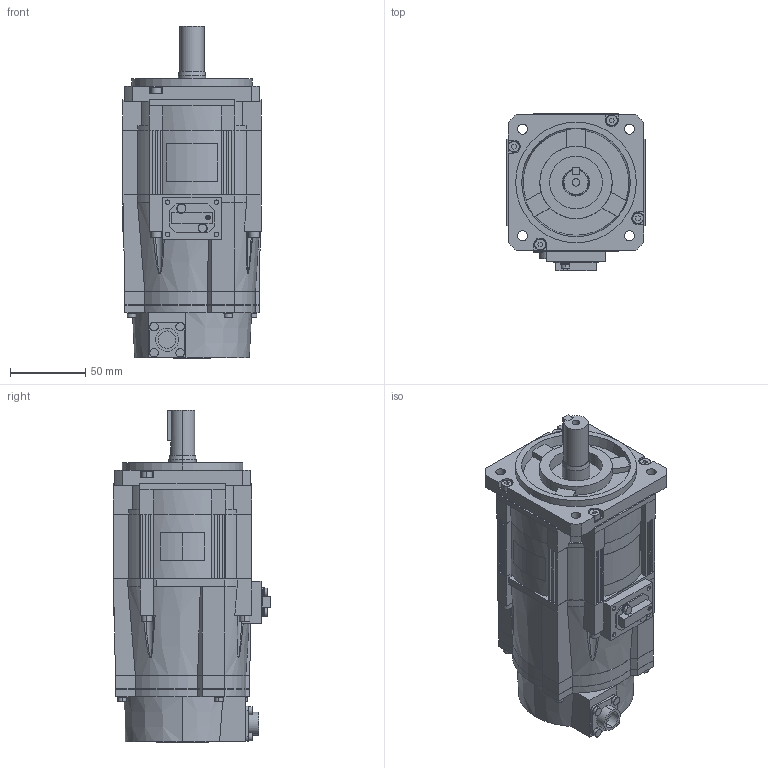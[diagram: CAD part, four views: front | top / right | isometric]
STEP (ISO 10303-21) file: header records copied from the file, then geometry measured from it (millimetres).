
FILE_DESCRIPTION (( 'STEP AP203' ), '1' );
FILE_NAME ('sgm7g_05a6a6c.STEP', '2016-11-12T04:50:00', ( '匠エンジニアリング山之内' ), ( 'TAKUMI-Engniaring' ), 'SwSTEP 2.0', 'SolidWorks 2006303', '' );
FILE_SCHEMA (( 'CONFIG_CONTROL_DESIGN' ));
Length unit declared in the file: millimetre
Products named in the file (3): sgm7g_05a6a6c_key; sgm7g_05a6a6c_base; sgm7g_05a6a6c
Assembly tree (2 placements, depth 2):
  sgm7g_05a6a6c
    sgm7g_05a6a6c_key
    sgm7g_05a6a6c_base
Bounding box: 92 x 104.5 x 220.1 mm (x, y, z)
Volume: 1191383.2 mm3; surface area: 100066 mm2
Topology: 2 solids, 2 shells, 643 faces, 1605 edges, 1037 vertices
Faces by surface type: plane 443, cylinder 175, cone 21, bspline 4
Entity records: 20438 total; most frequent: CARTESIAN_POINT 4506, DIRECTION 3260, ORIENTED_EDGE 3210, EDGE_CURVE 1605, VECTOR 1124, LINE 1124, AXIS2_PLACEMENT_3D 1068, VERTEX_POINT 1037
